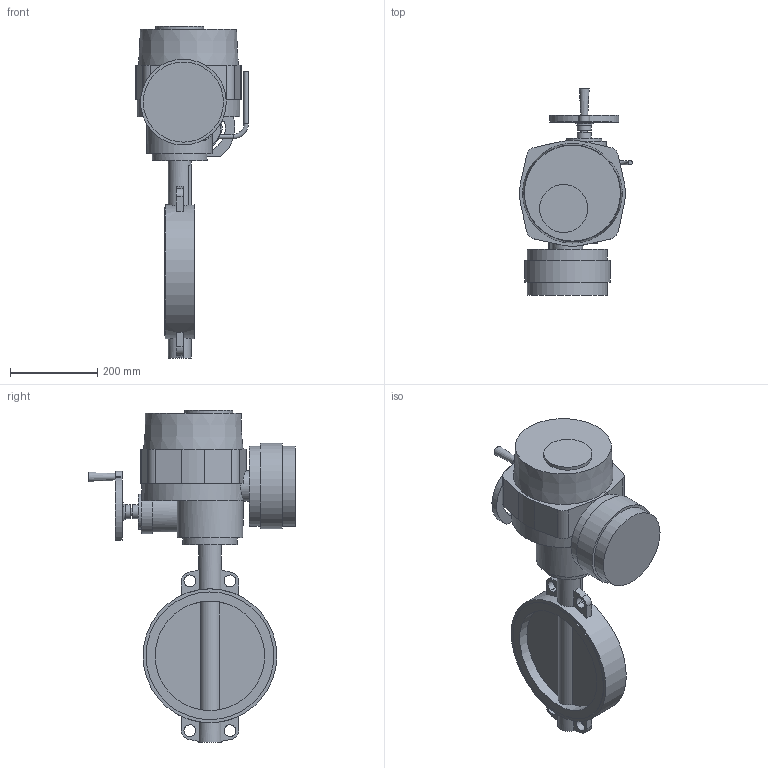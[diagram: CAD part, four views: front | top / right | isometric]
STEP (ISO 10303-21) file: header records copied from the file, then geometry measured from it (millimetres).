
FILE_DESCRIPTION(('STEP AP203'), '1');
FILE_NAME('Çàòâîð 017W.Z(ñòàëü) DN250+ÝÏ QT.A050', '', ('UNSPECIFIED'), ('UNSPECIFIED'), 'ASCON STEP Converter 1.6', 'ASCON Math Kernel', '');
FILE_SCHEMA(('CONFIG_CONTROL_DESIGN'));
Length unit declared in the file: millimetre
Bounding box: 257.68 x 472 x 759 mm (x, y, z)
Volume: 17787474.6 mm3; surface area: 788443.7 mm2
Topology: 1 solids, 1 shells, 866 faces, 2440 edges, 1622 vertices
Faces by surface type: cylinder 635, plane 227, cone 3, torus 1
Full cylindrical faces by diameter (mm): 6.7 x8, 10 x2, 12 x4, 16 x1, 32 x2, 35 x1, 52 x2, 70 x1, 80 x1, 100 x1, 110 x1, 125 x1, 150 x1, 183 x2, 196 x1, 250.4 x2, 292 x2, 306 x1
Entity records: 36676 total; most frequent: CARTESIAN_POINT 6163, DIRECTION 5415, ORIENTED_EDGE 4804, EDGE_CURVE 2402, AXIS2_PLACEMENT_3D 2173, VERTEX_POINT 1622, CIRCLE 1306, LINE 1069
